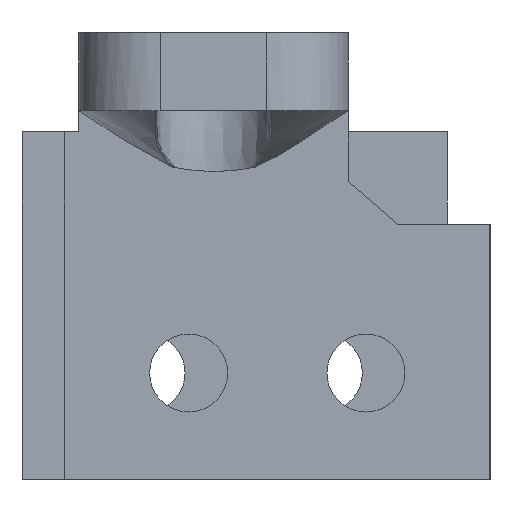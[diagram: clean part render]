
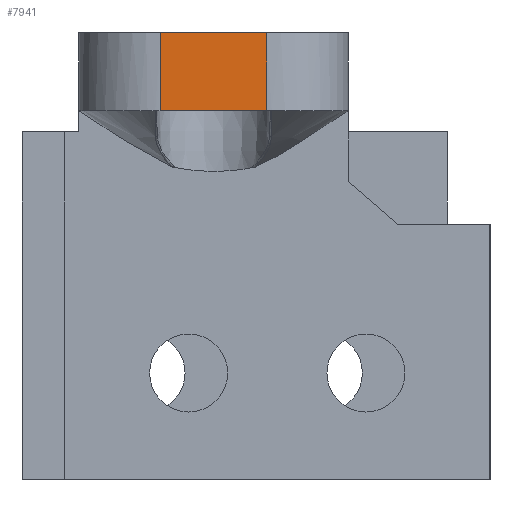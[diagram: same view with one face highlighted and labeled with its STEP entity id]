
A CAD part, left-side view. The second image highlights one B-rep face of the part: STEP entity #7941.
In plain terms, the highlighted planar face has unit normal (-1, 0, 0).
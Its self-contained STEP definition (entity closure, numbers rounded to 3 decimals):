
#178 = CARTESIAN_POINT ( 'NONE',  ( -159., -99., -208.5 ) ) ;
#260 = ORIENTED_EDGE ( 'NONE', *, *, #6802, .F. ) ;
#680 = DIRECTION ( 'NONE',  ( 0., -1., 0. ) ) ;
#683 = ORIENTED_EDGE ( 'NONE', *, *, #1845, .F. ) ;
#1245 = ORIENTED_EDGE ( 'NONE', *, *, #7119, .F. ) ;
#1845 = EDGE_CURVE ( 'NONE', #15186, #12175, #16838, .T. ) ;
#2628 = CARTESIAN_POINT ( 'NONE',  ( -159., -99., -208.5 ) ) ;
#4145 = LINE ( 'NONE', #5298, #17759 ) ;
#5015 = CARTESIAN_POINT ( 'NONE',  ( -159., -99., -208.5 ) ) ;
#5218 = DIRECTION ( 'NONE',  ( 0., 0., -1. ) ) ;
#5298 = CARTESIAN_POINT ( 'NONE',  ( -159., -99., -208.5 ) ) ;
#5304 = VECTOR ( 'NONE', #680, 1000. ) ;
#5799 = PLANE ( 'NONE',  #12144 ) ;
#6548 = FACE_OUTER_BOUND ( 'NONE', #7911, .T. ) ;
#6802 = EDGE_CURVE ( 'NONE', #21761, #9292, #17593, .T. ) ;
#6839 = LINE ( 'NONE', #19430, #12619 ) ;
#7119 = EDGE_CURVE ( 'NONE', #9292, #15186, #6839, .T. ) ;
#7534 = CARTESIAN_POINT ( 'NONE',  ( -159., -99., -197.5 ) ) ;
#7911 = EDGE_LOOP ( 'NONE', ( #260, #13191, #683, #1245 ) ) ;
#7941 = ADVANCED_FACE ( 'NONE', ( #6548 ), #5799, .F. ) ;
#8976 = VECTOR ( 'NONE', #9957, 1000. ) ;
#9292 = VERTEX_POINT ( 'NONE', #20192 ) ;
#9957 = DIRECTION ( 'NONE',  ( 0., 1., 0. ) ) ;
#10879 = DIRECTION ( 'NONE',  ( 0., 0., -1. ) ) ;
#10987 = DIRECTION ( 'NONE',  ( 0., 0., 1. ) ) ;
#11524 = EDGE_CURVE ( 'NONE', #12175, #21761, #4145, .T. ) ;
#12144 = AXIS2_PLACEMENT_3D ( 'NONE', #2628, #19193, #10879 ) ;
#12175 = VERTEX_POINT ( 'NONE', #21508 ) ;
#12619 = VECTOR ( 'NONE', #10987, 1000. ) ;
#13191 = ORIENTED_EDGE ( 'NONE', *, *, #11524, .F. ) ;
#15186 = VERTEX_POINT ( 'NONE', #19813 ) ;
#16838 = LINE ( 'NONE', #7534, #5304 ) ;
#17593 = LINE ( 'NONE', #5015, #8976 ) ;
#17759 = VECTOR ( 'NONE', #5218, 1000. ) ;
#19193 = DIRECTION ( 'NONE',  ( 1., 0., 0. ) ) ;
#19430 = CARTESIAN_POINT ( 'NONE',  ( -159., -84., -208.5 ) ) ;
#19813 = CARTESIAN_POINT ( 'NONE',  ( -159., -84., -197.5 ) ) ;
#20192 = CARTESIAN_POINT ( 'NONE',  ( -159., -84., -208.5 ) ) ;
#21508 = CARTESIAN_POINT ( 'NONE',  ( -159., -99., -197.5 ) ) ;
#21761 = VERTEX_POINT ( 'NONE', #178 ) ;
